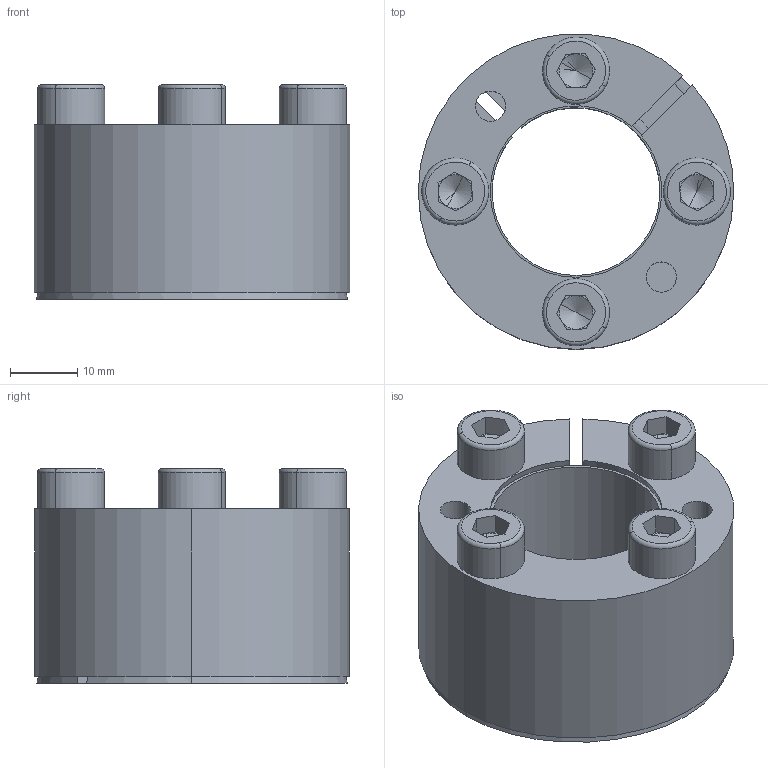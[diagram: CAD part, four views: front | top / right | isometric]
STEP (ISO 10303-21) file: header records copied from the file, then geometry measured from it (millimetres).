
FILE_DESCRIPTION (( 'STEP AP214' ), '1' );
FILE_NAME ('CONEX-K-25x47.step', '2013-04-06T13:20:55', ( 'Pc' ), ( '' ), 'SwSTEP 2.0', 'SolidWorks 2013', '' );
FILE_SCHEMA (( 'AUTOMOTIVE_DESIGN' ));
Length unit declared in the file: millimetre
Products named in the file (1): CONEX-K-25x47
Bounding box: 47 x 46.92 x 32.02 mm (x, y, z)
Volume: 26121.2 mm3; surface area: 20020.4 mm2
Topology: 6 solids, 6 shells, 162 faces, 378 edges, 228 vertices
Faces by surface type: plane 70, cylinder 48, cone 28, torus 16
Entity records: 6473 total; most frequent: DIRECTION 866, CARTESIAN_POINT 785, ORIENTED_EDGE 740, EDGE_CURVE 370, AXIS2_PLACEMENT_3D 341, VERTEX_POINT 228, EDGE_LOOP 190, LINE 184
